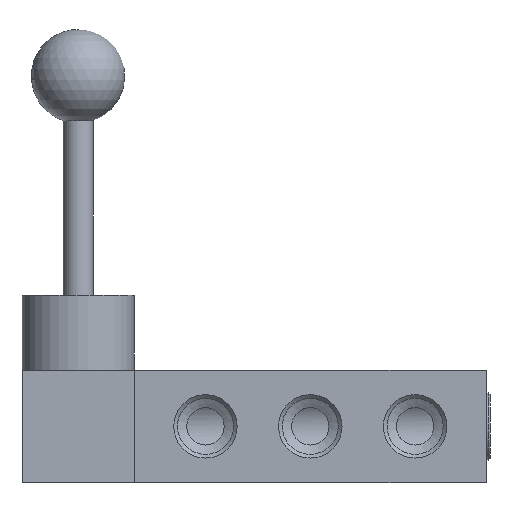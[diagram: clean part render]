
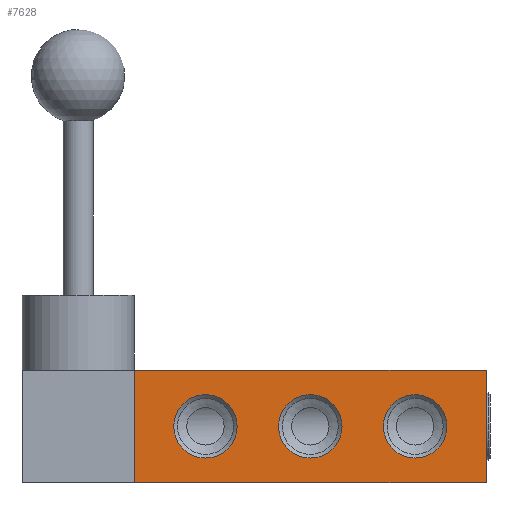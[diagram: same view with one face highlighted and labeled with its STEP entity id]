
A CAD part, front view. The second image highlights one B-rep face of the part: STEP entity #7628.
In plain terms, the highlighted planar face has unit normal (0, -1, 0).
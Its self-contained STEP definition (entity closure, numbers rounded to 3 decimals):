
#386=LINE('',#10186,#956);
#451=LINE('',#10604,#1021);
#482=LINE('',#10854,#1052);
#485=LINE('',#10860,#1055);
#956=VECTOR('',#8703,1000.);
#1021=VECTOR('',#8780,1000.);
#1052=VECTOR('',#8849,1000.);
#1055=VECTOR('',#8856,1000.);
#1934=ORIENTED_EDGE('',*,*,#3197,.T.);
#1935=ORIENTED_EDGE('',*,*,#3198,.T.);
#1936=ORIENTED_EDGE('',*,*,#3199,.T.);
#1937=ORIENTED_EDGE('',*,*,#3041,.T.);
#1938=ORIENTED_EDGE('',*,*,#3184,.T.);
#1939=ORIENTED_EDGE('',*,*,#3125,.F.);
#1940=ORIENTED_EDGE('',*,*,#3180,.F.);
#3041=EDGE_CURVE('',#3720,#3722,#386,.T.);
#3125=EDGE_CURVE('',#3806,#3807,#451,.T.);
#3180=EDGE_CURVE('',#3720,#3806,#482,.T.);
#3184=EDGE_CURVE('',#3722,#3807,#485,.T.);
#3197=EDGE_CURVE('',#3874,#3874,#4143,.F.);
#3198=EDGE_CURVE('',#3875,#3875,#4144,.F.);
#3199=EDGE_CURVE('',#3876,#3876,#4145,.F.);
#3720=VERTEX_POINT('',#10181);
#3722=VERTEX_POINT('',#10185);
#3806=VERTEX_POINT('',#10603);
#3807=VERTEX_POINT('',#10605);
#3874=VERTEX_POINT('',#10893);
#3875=VERTEX_POINT('',#10895);
#3876=VERTEX_POINT('',#10897);
#4143=CIRCLE('',#8040,8.475);
#4144=CIRCLE('',#8041,8.475);
#4145=CIRCLE('',#8042,8.475);
#4355=EDGE_LOOP('',(#1934));
#4356=EDGE_LOOP('',(#1935));
#4357=EDGE_LOOP('',(#1936));
#4358=EDGE_LOOP('',(#1937,#1938,#1939,#1940));
#4813=FACE_BOUND('',#4355,.T.);
#4814=FACE_BOUND('',#4356,.T.);
#4815=FACE_BOUND('',#4357,.T.);
#4816=FACE_BOUND('',#4358,.T.);
#5157=PLANE('',#8039);
#7628=ADVANCED_FACE('',(#4813,#4814,#4815,#4816),#5157,.T.);
#8039=AXIS2_PLACEMENT_3D('',#10891,#8893,#8894);
#8040=AXIS2_PLACEMENT_3D('',#10892,#8895,#8896);
#8041=AXIS2_PLACEMENT_3D('',#10894,#8897,#8898);
#8042=AXIS2_PLACEMENT_3D('',#10896,#8899,#8900);
#8703=DIRECTION('',(1.,0.,0.));
#8780=DIRECTION('',(1.,0.,0.));
#8849=DIRECTION('',(0.,0.,1.));
#8856=DIRECTION('',(0.,0.,1.));
#8893=DIRECTION('',(0.,-1.,0.));
#8894=DIRECTION('',(1.,0.,0.));
#8895=DIRECTION('',(0.,-1.,0.));
#8896=DIRECTION('',(0.,0.,-1.));
#8897=DIRECTION('',(0.,-1.,0.));
#8898=DIRECTION('',(0.,0.,-1.));
#8899=DIRECTION('',(0.,-1.,0.));
#8900=DIRECTION('',(0.,0.,-1.));
#10181=CARTESIAN_POINT('',(-94.,-25.,-15.));
#10185=CARTESIAN_POINT('',(0.,-25.,-15.));
#10186=CARTESIAN_POINT('',(-94.,-25.,-15.));
#10603=CARTESIAN_POINT('',(-94.,-25.,15.));
#10604=CARTESIAN_POINT('',(-94.,-25.,15.));
#10605=CARTESIAN_POINT('',(0.,-25.,15.));
#10854=CARTESIAN_POINT('',(-94.,-25.,-15.));
#10860=CARTESIAN_POINT('',(0.,-25.,-15.));
#10891=CARTESIAN_POINT('',(-94.,-25.,-15.));
#10892=CARTESIAN_POINT('',(-19.,-25.,0.));
#10893=CARTESIAN_POINT('',(-19.,-25.,-8.475));
#10894=CARTESIAN_POINT('',(-47.,-25.,0.));
#10895=CARTESIAN_POINT('',(-47.,-25.,-8.475));
#10896=CARTESIAN_POINT('',(-75.,-25.,0.));
#10897=CARTESIAN_POINT('',(-75.,-25.,-8.475));
